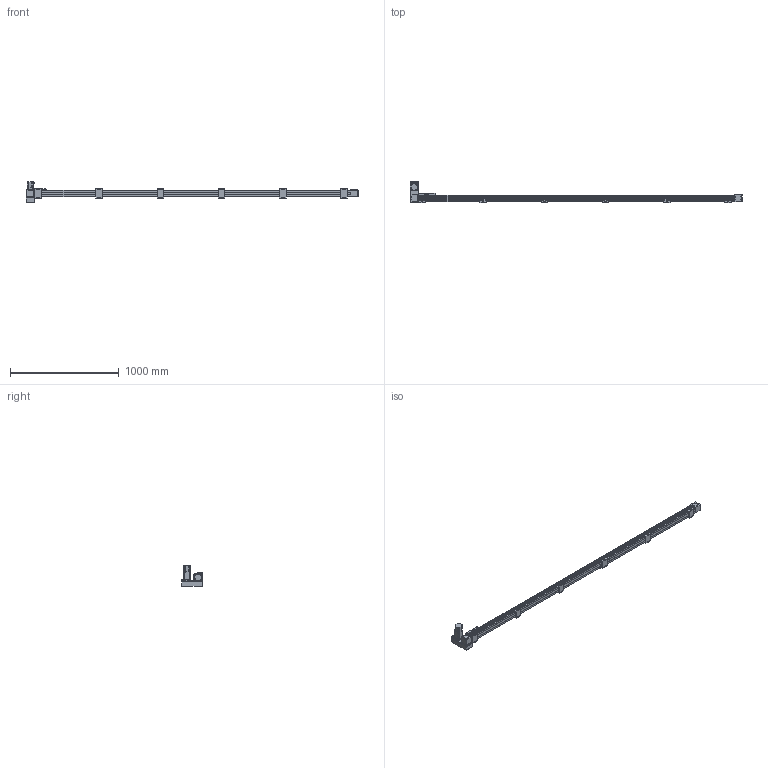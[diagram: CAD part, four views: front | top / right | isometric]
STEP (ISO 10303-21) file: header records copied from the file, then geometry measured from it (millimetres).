
FILE_DESCRIPTION(/* description */ ('STEP AP214'),/* implementation_level */ '2;1');
FILE_NAME(/* name */ 'SK60-P13-S2750-LU-T40-C1-N(0)',/* time_stamp */ '2023-04-06T04:48:56+02:00',/* author */ ('License CC BY-ND 4.0'),/* organization */ ('CADENAS'),/* preprocessor_version */ 'ST-DEVELOPER v19.3',/* originating_system */ 'PARTsolutions',/* authorisation */ ' ');
FILE_SCHEMA (('AUTOMOTIVE_DESIGN {1 0 10303 214 3 1 1}'));
Length unit declared in the file: millimetre
Products named in the file (10): SK60-P13-S2750-LU-T40-C1-N(0); PSC140-sensor; SK60-S450_seat; SK60-S450-BL-C1_slider; SK60_body3; SK60_body6; SK60-BL_body2; T40-p1; SK60-LU_fb; SK60-S2750-LU-C1_body
Assembly tree (20 placements, depth 2):
  SK60-P13-S2750-LU-T40-C1-N(0)
    PSC140-sensor  x3
    SK60-S450_seat  x6
    SK60-S450-BL-C1_slider
    SK60_body3  x3
    SK60_body6  x2
    SK60-BL_body2  x2
    T40-p1
    SK60-LU_fb
    SK60-S2750-LU-C1_body
Bounding box: 3055.5 x 201 x 189.7 mm (x, y, z)
Volume: 11578531.7 mm3; surface area: 1360328.7 mm2
Topology: 20 solids, 20 shells, 986 faces, 2440 edges, 1605 vertices
Faces by surface type: plane 620, cylinder 326, cone 38, torus 2
Full cylindrical faces by diameter (mm): 2.8 x3, 3.3 x4, 4 x2, 4.5 x30, 4.6 x3, 4.917 x32, 5 x6, 5.478 x4, 5.5 x35, 6.5 x12, 7 x2, 8 x4, 8.5 x4, 9.988 x4, 10 x24, 14 x1, 47 x3, 50 x2
Entity records: 18687 total; most frequent: DIRECTION 3192, CARTESIAN_POINT 3154, ORIENTED_EDGE 2940, EDGE_CURVE 1470, AXIS2_PLACEMENT_3D 1072, LINE 1048, VECTOR 1048, VERTEX_POINT 1034
